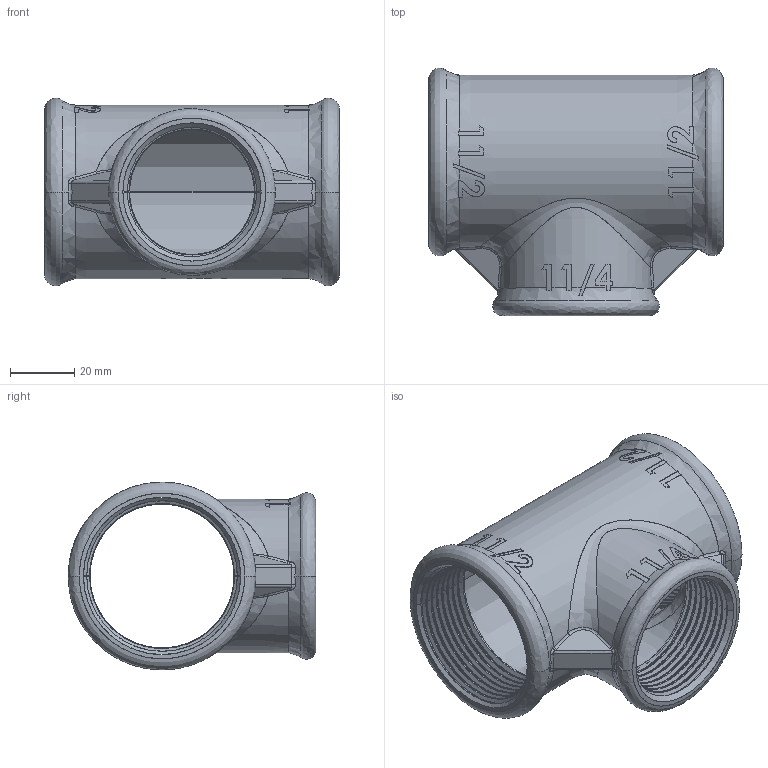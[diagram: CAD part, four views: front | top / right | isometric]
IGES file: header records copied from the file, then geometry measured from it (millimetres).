
Start section: SolidWorks IGES file using analytic representation for surfaces
Global section: file name: C:\Users\Joel Rosa\Desktop\Tubulação\12-45-XXX\12-45-042.IGS; native system: SolidWorks 2011; preprocessor: SolidWorks 2011; author: Joel Rosa; date: 121212.234057; units: millimetre
Bounding box: 92 x 77.3 x 58.6 mm (x, y, z)
Surface area: 41249.9 mm2 (no closed solid volume)
Topology: 0 solids, 0 shells, 496 faces, 4668 edges, 4668 vertices
Faces by surface type: bspline 357, revolution 139
